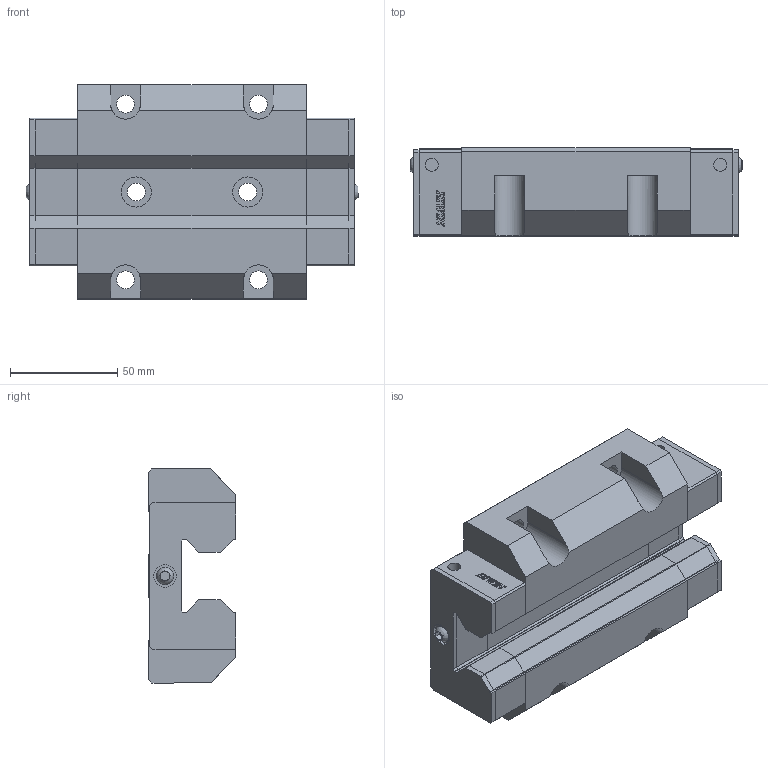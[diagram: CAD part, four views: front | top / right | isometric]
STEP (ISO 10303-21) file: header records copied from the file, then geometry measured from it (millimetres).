
FILE_DESCRIPTION(/* description */ (''),/* implementation_level */ '2;1');
FILE_NAME(/* name */ 'URW35HCZAH_GW202603049621.stp',/* time_stamp */ '2026-03-30T22:47:58+08:00',/* author */ ('user'),/* organization */ (''),/* preprocessor_version */ 'ST-DEVELOPER v20.1',/* originating_system */ 'Autodesk Inventor 2026',/* authorisation */ '');
FILE_SCHEMA (('AUTOMOTIVE_DESIGN { 1 0 10303 214 3 1 1 }'));
Products named in the file (3): URW35HCZAH_GW202603049621; URW35H_左封; 31010069
Assembly tree (3 placements, depth 2):
  URW35HCZAH_GW202603049621
    URW35H_左封
    31010069  x2
Bounding box: 154.9 x 41 x 100 mm (x, y, z)
Volume: 415462.6 mm3; surface area: 76195.8 mm2
Topology: 7 solids, 7 shells, 540 faces, 1498 edges, 998 vertices
Faces by surface type: plane 398, cylinder 140, bspline 2
Full cylindrical faces by diameter (mm): 1.5 x2, 6 x6, 6.5 x2, 8 x2, 8.376 x6, 10.3 x2, 10.5 x2, 14 x2
Entity records: 17040 total; most frequent: CARTESIAN_POINT 3012, ORIENTED_EDGE 2944, DIRECTION 2822, EDGE_CURVE 1472, LINE 1186, VECTOR 1186, VERTEX_POINT 981, AXIS2_PLACEMENT_3D 818
